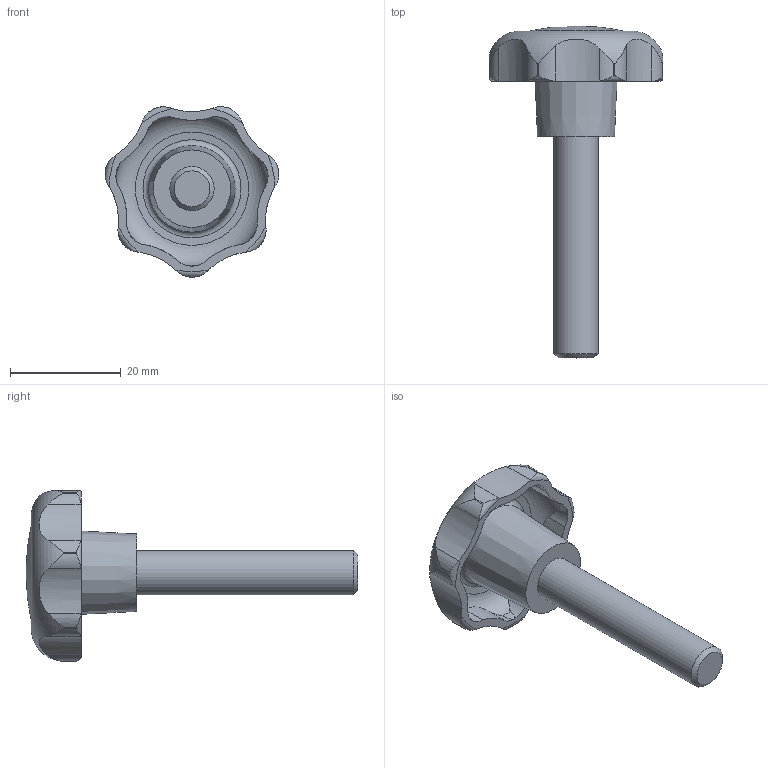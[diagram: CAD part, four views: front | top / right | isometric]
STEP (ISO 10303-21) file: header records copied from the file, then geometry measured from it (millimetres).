
FILE_DESCRIPTION( ( 'STEP AP203' ), '1' );
FILE_NAME( 'C:/Temp/Ganter_Step_05_03_2020/data/2_2/gn_6336_4/gn_6336_4_st/Star knob GN 6336.4-ST-32-M8-40.stp', '2020-03-05T12:07:26', ( 'License CC BY-ND 4.0' ), ( 'CADENAS' ), ' ', 'PARTsolutions', ' ' );
FILE_SCHEMA( ( 'CONFIG_CONTROL_DESIGN' ) );
Length unit declared in the file: millimetre
Products named in the file (1): _Star knob GN 6336.4-ST-32-M8-40
Bounding box: 31.4 x 60 x 30.81 mm (x, y, z)
Volume: 7808.9 mm3; surface area: 4176.6 mm2
Topology: 1 solids, 1 shells, 74 faces, 209 edges, 138 vertices
Faces by surface type: cylinder 50, torus 10, cone 10, plane 3, sphere 1
Full cylindrical faces by diameter (mm): 8 x1
Entity records: 3221 total; most frequent: CARTESIAN_POINT 1406, ORIENTED_EDGE 394, DIRECTION 336, EDGE_CURVE 197, AXIS2_PLACEMENT_3D 147, VERTEX_POINT 136, EDGE_LOOP 83, B_SPLINE_CURVE_WITH_KNOTS 83
